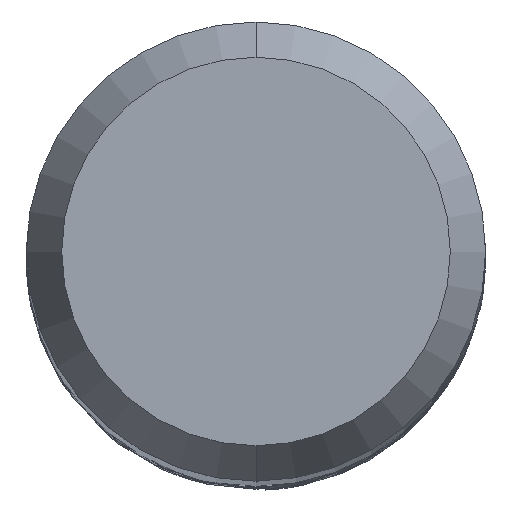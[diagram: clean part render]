
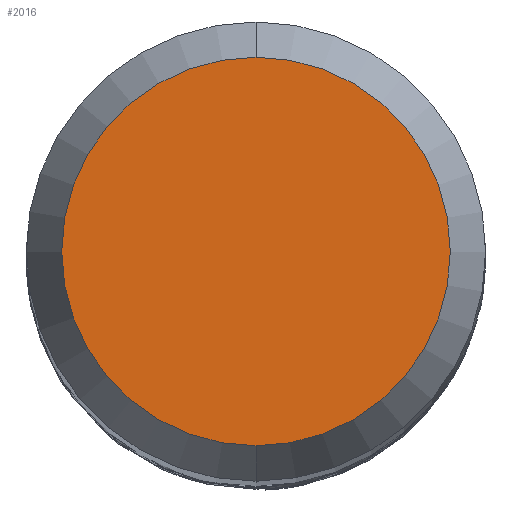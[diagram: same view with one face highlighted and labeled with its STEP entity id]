
A CAD part, top view. The second image highlights one B-rep face of the part: STEP entity #2016.
In plain terms, the highlighted planar face has unit normal (0, 0, 1).
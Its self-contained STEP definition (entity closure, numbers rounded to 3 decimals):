
#1042=EDGE_CURVE('',#1356,#2142,#2545,.T.);
#1254=EDGE_CURVE('',#2142,#1356,#2771,.T.);
#1356=VERTEX_POINT('',#2880);
#2016=ADVANCED_FACE('',(#3606),#3607,.T.);
#2142=VERTEX_POINT('',#3742);
#2545=CIRCLE('',#7285,2.538);
#2771=CIRCLE('',#9314,2.538);
#2880=CARTESIAN_POINT('',(0.,-2.538,0.0));
#3606=FACE_OUTER_BOUND('',#18287,.T.);
#3607=PLANE('',#18288);
#3742=CARTESIAN_POINT('',(0.0,2.538,0.0));
#7285=AXIS2_PLACEMENT_3D('',#19898,#19899,#19900);
#9314=AXIS2_PLACEMENT_3D('',#20062,#20063,#20064);
#18287=EDGE_LOOP('',(#20899,#20900));
#18288=AXIS2_PLACEMENT_3D('',#20901,#20902,#20903);
#19898=CARTESIAN_POINT('',(0.0,0.0,0.0));
#19899=DIRECTION('',(0.0,0.0,-1.0));
#19900=DIRECTION('',(0.0,1.0,0.0));
#20062=CARTESIAN_POINT('',(0.0,0.0,0.0));
#20063=DIRECTION('',(0.0,0.0,-1.0));
#20064=DIRECTION('',(0.0,1.0,0.0));
#20899=ORIENTED_EDGE('',*,*,#1254,.F.);
#20900=ORIENTED_EDGE('',*,*,#1042,.F.);
#20901=CARTESIAN_POINT('',(0.0,1.269,0.0));
#20902=DIRECTION('',(-0.0,0.0,1.0));
#20903=DIRECTION('',(0.0,-1.0,0.0));
